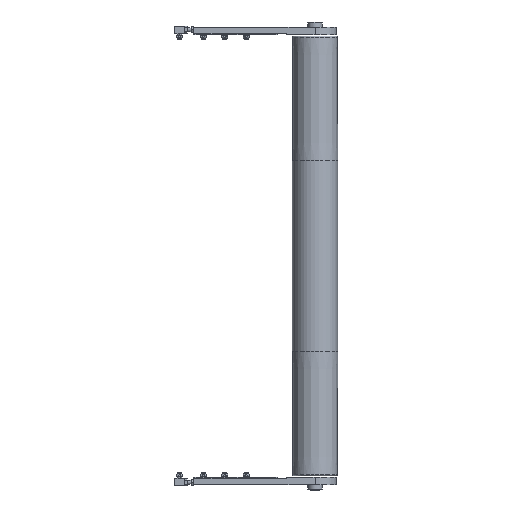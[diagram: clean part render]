
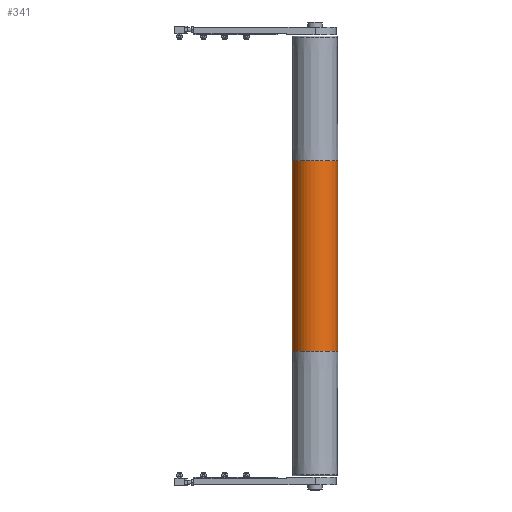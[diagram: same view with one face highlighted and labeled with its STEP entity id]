
A CAD part, front view. The second image highlights one B-rep face of the part: STEP entity #341.
In plain terms, the highlighted cylindrical face has radius 47.5 mm (diameter 95 mm), a partial arc.
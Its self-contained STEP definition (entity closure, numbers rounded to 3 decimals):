
#341 = ADVANCED_FACE ( 'NONE', ( #4100 ), #4089, .T. ) ;
#556 = EDGE_LOOP ( 'NONE', ( #1832, #1509, #1839, #1507 ) ) ;
#1507 = ORIENTED_EDGE ( 'NONE', *, *, #18400, .T. ) ;
#1509 = ORIENTED_EDGE ( 'NONE', *, *, #17882, .F. ) ;
#1739 = DIRECTION ( 'NONE',  ( 0., 0., -1. ) ) ;
#1759 = CARTESIAN_POINT ( 'NONE',  ( 47.5, 0., 460. ) ) ;
#1832 = ORIENTED_EDGE ( 'NONE', *, *, #4853, .F. ) ;
#1839 = ORIENTED_EDGE ( 'NONE', *, *, #17887, .T. ) ;
#4089 = CYLINDRICAL_SURFACE ( 'NONE', #20852, 47.5 ) ;
#4100 = FACE_OUTER_BOUND ( 'NONE', #556, .T. ) ;
#4853 = EDGE_CURVE ( 'NONE', #9636, #5552, #22455, .T. ) ;
#5552 = VERTEX_POINT ( 'NONE', #12711 ) ;
#7035 = CARTESIAN_POINT ( 'NONE',  ( 0., 0., -200. ) ) ;
#7036 = DIRECTION ( 'NONE',  ( 1., 0., 0. ) ) ;
#7037 = DIRECTION ( 'NONE',  ( 0., 0., 1. ) ) ;
#9431 = DIRECTION ( 'NONE',  ( 0., 0., -1. ) ) ;
#9443 = CARTESIAN_POINT ( 'NONE',  ( -47.5, 0., 460. ) ) ;
#9445 = DIRECTION ( 'NONE',  ( 1., 0., 0. ) ) ;
#9446 = DIRECTION ( 'NONE',  ( 0., 0., 1. ) ) ;
#9447 = CARTESIAN_POINT ( 'NONE',  ( 0., 0., 200. ) ) ;
#9636 = VERTEX_POINT ( 'NONE', #12582 ) ;
#10005 = VERTEX_POINT ( 'NONE', #19494 ) ;
#10436 = VERTEX_POINT ( 'NONE', #19207 ) ;
#10851 = CIRCLE ( 'NONE', #16532, 47.5 ) ;
#12582 = CARTESIAN_POINT ( 'NONE',  ( 47.5, 0., 200. ) ) ;
#12711 = CARTESIAN_POINT ( 'NONE',  ( 47.5, 0., -200. ) ) ;
#12945 = VECTOR ( 'NONE', #9431, 1000. ) ;
#12955 = CIRCLE ( 'NONE', #16363, 47.5 ) ;
#12973 = LINE ( 'NONE', #9443, #12945 ) ;
#14872 = CARTESIAN_POINT ( 'NONE',  ( 0., 0., 460. ) ) ;
#15515 = DIRECTION ( 'NONE',  ( 0., 0., -1. ) ) ;
#15620 = DIRECTION ( 'NONE',  ( -1., 0., 0. ) ) ;
#16363 = AXIS2_PLACEMENT_3D ( 'NONE', #9447, #9446, #9445 ) ;
#16532 = AXIS2_PLACEMENT_3D ( 'NONE', #7035, #7037, #7036 ) ;
#17882 = EDGE_CURVE ( 'NONE', #10005, #9636, #12955, .T. ) ;
#17887 = EDGE_CURVE ( 'NONE', #10005, #10436, #12973, .T. ) ;
#18400 = EDGE_CURVE ( 'NONE', #10436, #5552, #10851, .T. ) ;
#19207 = CARTESIAN_POINT ( 'NONE',  ( -47.5, 0., -200. ) ) ;
#19494 = CARTESIAN_POINT ( 'NONE',  ( -47.5, 0., 200. ) ) ;
#20852 = AXIS2_PLACEMENT_3D ( 'NONE', #14872, #15515, #15620 ) ;
#22453 = VECTOR ( 'NONE', #1739, 1000. ) ;
#22455 = LINE ( 'NONE', #1759, #22453 ) ;
